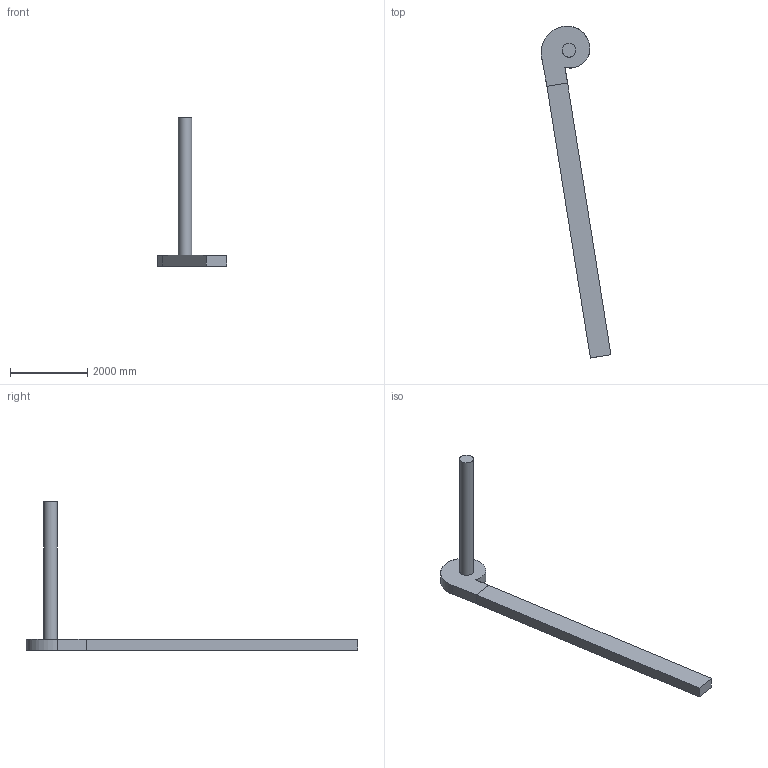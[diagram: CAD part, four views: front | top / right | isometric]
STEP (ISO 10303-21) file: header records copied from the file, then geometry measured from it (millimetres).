
FILE_DESCRIPTION (( 'STEP AP203' ), '1' );
FILE_NAME ('CFD Model 28-8-11-2.STEP', '2020-03-26T20:18:47', ( '' ), ( '' ), 'SwSTEP 2.0', 'SolidWorks 2020', '' );
FILE_SCHEMA (( 'CONFIG_CONTROL_DESIGN' ));
Length unit declared in the file: inch
Products named in the file (7): Outlet pipe; Shroud air; Inlet pipe; CFD Model 28-8-11-2; Rotating Region; Shroud; W8 AA11
Assembly tree (6 placements, depth 2):
  CFD Model 28-8-11-2
    Rotating Region
    Shroud
    Inlet pipe
    Outlet pipe
    Shroud air
    W8 AA11
Bounding box: 1804.82 x 8580.85 x 3835.4 mm (x, y, z)
Volume: 1907553493.2 mm3; surface area: 32012106.1 mm2
Topology: 31 solids, 31 shells, 931 faces, 1836 edges, 968 vertices
Faces by surface type: plane 716, cylinder 215
Full cylindrical faces by diameter (mm): 15.875 x8, 355.346 x1, 355.6 x1, 381 x1, 711.2 x2, 716.28 x1
Entity records: 23439 total; most frequent: DIRECTION 4132, CARTESIAN_POINT 3730, ORIENTED_EDGE 3644, EDGE_CURVE 1822, VECTOR 1392, LINE 1392, AXIS2_PLACEMENT_3D 1370, VERTEX_POINT 968
